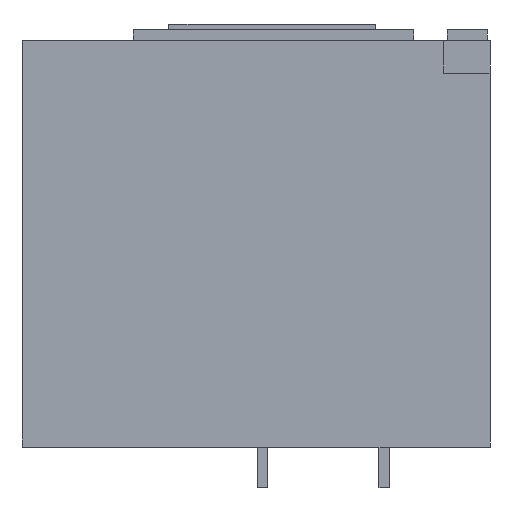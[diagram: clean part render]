
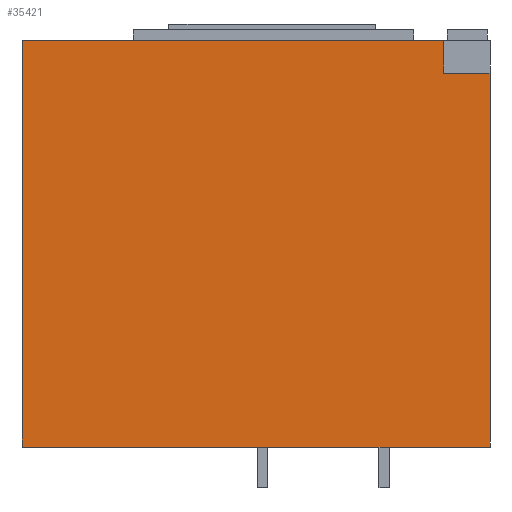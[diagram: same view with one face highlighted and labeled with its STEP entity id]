
A CAD part, left-side view. The second image highlights one B-rep face of the part: STEP entity #35421.
In plain terms, the highlighted planar face has unit normal (-1, 0, 0).
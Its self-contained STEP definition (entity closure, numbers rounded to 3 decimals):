
#805 = VERTEX_POINT ( 'NONE', #20452 ) ;
#996 = LINE ( 'NONE', #14400, #23031 ) ;
#1206 = DIRECTION ( 'NONE',  ( 0., -1., 0. ) ) ;
#1885 = FACE_OUTER_BOUND ( 'NONE', #10825, .T. ) ;
#3433 = CARTESIAN_POINT ( 'NONE',  ( -167.5, 430., 0. ) ) ;
#3733 = VERTEX_POINT ( 'NONE', #23404 ) ;
#4571 = DIRECTION ( 'NONE',  ( 0., 0., 1. ) ) ;
#4861 = LINE ( 'NONE', #8202, #19895 ) ;
#5090 = EDGE_CURVE ( 'NONE', #36716, #38585, #4861, .T. ) ;
#7511 = VECTOR ( 'NONE', #4571, 1000. ) ;
#8095 = DIRECTION ( 'NONE',  ( 0., -1., 0. ) ) ;
#8202 = CARTESIAN_POINT ( 'NONE',  ( -167.5, 430.001, -30. ) ) ;
#8726 = VECTOR ( 'NONE', #9122, 1000. ) ;
#9122 = DIRECTION ( 'NONE',  ( 0., 0., 1. ) ) ;
#9393 = LINE ( 'NONE', #14546, #33163 ) ;
#10825 = EDGE_LOOP ( 'NONE', ( #14141, #30657, #23759, #22244, #12101, #31035 ) ) ;
#10962 = CARTESIAN_POINT ( 'NONE',  ( -167.5, 0., 0. ) ) ;
#11663 = EDGE_CURVE ( 'NONE', #30153, #13547, #15495, .T. ) ;
#12101 = ORIENTED_EDGE ( 'NONE', *, *, #5090, .F. ) ;
#13491 = EDGE_CURVE ( 'NONE', #36716, #805, #9393, .T. ) ;
#13547 = VERTEX_POINT ( 'NONE', #3433 ) ;
#14141 = ORIENTED_EDGE ( 'NONE', *, *, #23819, .F. ) ;
#14400 = CARTESIAN_POINT ( 'NONE',  ( -167.5, 0., -373.5 ) ) ;
#14546 = CARTESIAN_POINT ( 'NONE',  ( -167.5, 42.5, -373.5 ) ) ;
#15495 = LINE ( 'NONE', #31118, #7511 ) ;
#19205 = DIRECTION ( 'NONE',  ( -1., 0., 0. ) ) ;
#19272 = AXIS2_PLACEMENT_3D ( 'NONE', #37069, #19205, #1206 ) ;
#19895 = VECTOR ( 'NONE', #26060, 1000. ) ;
#19922 = EDGE_CURVE ( 'NONE', #3733, #38585, #31558, .T. ) ;
#20452 = CARTESIAN_POINT ( 'NONE',  ( -167.5, 42.5, 0. ) ) ;
#22244 = ORIENTED_EDGE ( 'NONE', *, *, #19922, .T. ) ;
#23031 = VECTOR ( 'NONE', #8095, 1000. ) ;
#23404 = CARTESIAN_POINT ( 'NONE',  ( -167.5, 0., -373.5 ) ) ;
#23759 = ORIENTED_EDGE ( 'NONE', *, *, #33732, .T. ) ;
#23819 = EDGE_CURVE ( 'NONE', #13547, #805, #25792, .T. ) ;
#25378 = VECTOR ( 'NONE', #34804, 1000. ) ;
#25792 = LINE ( 'NONE', #10962, #25378 ) ;
#26060 = DIRECTION ( 'NONE',  ( 0., -1., 0. ) ) ;
#26931 = CARTESIAN_POINT ( 'NONE',  ( -167.5, 0., -373.5 ) ) ;
#30153 = VERTEX_POINT ( 'NONE', #32356 ) ;
#30657 = ORIENTED_EDGE ( 'NONE', *, *, #11663, .F. ) ;
#31027 = PLANE ( 'NONE',  #19272 ) ;
#31035 = ORIENTED_EDGE ( 'NONE', *, *, #13491, .T. ) ;
#31118 = CARTESIAN_POINT ( 'NONE',  ( -167.5, 430., -373.5 ) ) ;
#31558 = LINE ( 'NONE', #26931, #8726 ) ;
#32356 = CARTESIAN_POINT ( 'NONE',  ( -167.5, 430., -373.5 ) ) ;
#33163 = VECTOR ( 'NONE', #35404, 1000. ) ;
#33732 = EDGE_CURVE ( 'NONE', #30153, #3733, #996, .T. ) ;
#34804 = DIRECTION ( 'NONE',  ( 0., -1., 0. ) ) ;
#35404 = DIRECTION ( 'NONE',  ( 0., 0., 1. ) ) ;
#35421 = ADVANCED_FACE ( 'NONE', ( #1885 ), #31027, .T. ) ;
#36716 = VERTEX_POINT ( 'NONE', #38446 ) ;
#37069 = CARTESIAN_POINT ( 'NONE',  ( -167.5, 0., -373.5 ) ) ;
#37314 = CARTESIAN_POINT ( 'NONE',  ( -167.5, 0., -30. ) ) ;
#38446 = CARTESIAN_POINT ( 'NONE',  ( -167.5, 42.5, -30. ) ) ;
#38585 = VERTEX_POINT ( 'NONE', #37314 ) ;
